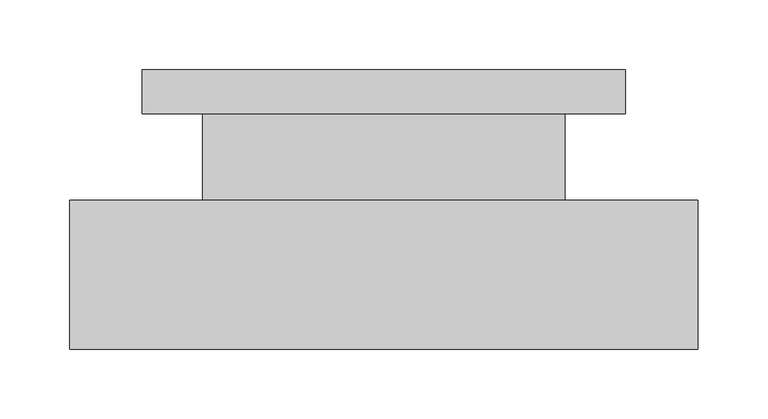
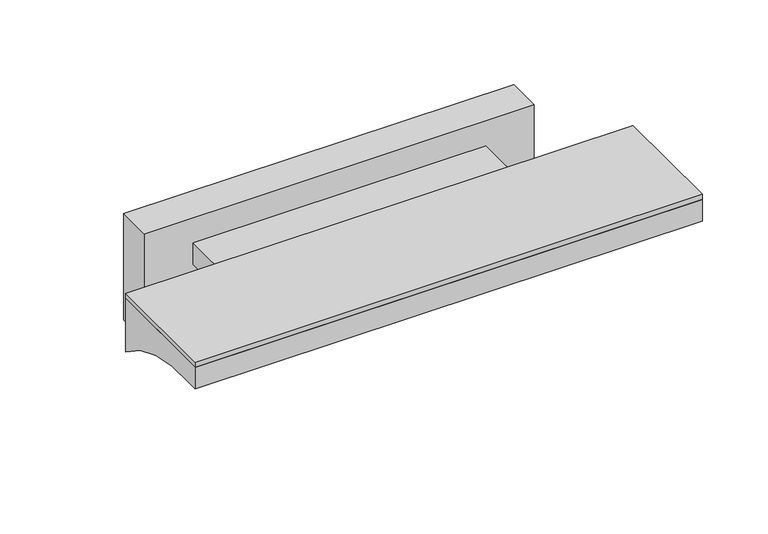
"""IFC4 building model written with IfcOpenShell, lengths in millimetres: light fixture geometry, ZYR_06.02.03 Aplic Exterior : Aplic Exterior Tipus 01."""

from ifc_helpers import new_model, si_unit, point, frame, frame_2d, origin, place, context, project, spatial, polyline, circle_curve, trimmed, segment, composite_curve, outline, extrude, source, transform, mapped, element, save


def light_fixture_ef5a4119(model_context):
    return source(origin(), model_context, "Body", "SweptSolid", [
        extrude(outline(polyline([(173.0769231, 0.0), (173.0769231, -31.3337198), (-173.0769231, -31.3337198), (-173.0769231, 0.0), (173.0769231, 0.0)])), frame((0.0, 0.0, -100.0), z_axis=(0.0, 0.0, 1.0), x_axis=(1.0, 0.0, 0.0)), (0.0, 0.0, 1.0), 100.0),
        extrude(outline(composite_curve([segment(trimmed(circle_curve(frame_2d((-178.8201996, -159.3286858)), 134.825473), [point((-93.4185985, -55.0))], [point((-190.383604, -25.0))], True, "CARTESIAN"), True, "CONTINUOUS"), segment(polyline([(-190.383604, -25.0), (-200.0, -25.0), (-200.0, -5.0), (-93.4185985, -5.0), (-93.4185985, -55.0)]), True, "CONTINUOUS")], self_intersect=False)), frame((-225.0, 0.0, 0.0), z_axis=(1.0, 0.0, 0.0), x_axis=(0.0, 1.0, 0.0)), (0.0, 0.0, 1.0), 450.0),
        extrude(outline(polyline([(225.0, -93.4185985), (225.0, -200.0), (-225.0, -200.0), (-225.0, -93.4185985), (225.0, -93.4185985)])), frame((0.0, 0.0, -5.0), z_axis=(0.0, 0.0, 1.0), x_axis=(1.0, 0.0, 0.0)), (0.0, 0.0, 1.0), 5.0),
        extrude(outline(polyline([(129.8101887, -31.3337198), (129.8101887, -93.3338438), (-129.8101887, -93.3338438), (-129.8101887, -31.3337198), (129.8101887, -31.3337198)])), frame((0.0, 0.0, -43.3333333), z_axis=(0.0, 0.0, 1.0), x_axis=(1.0, 0.0, 0.0)), (0.0, 0.0, 1.0), 20.0),
    ])


if __name__ == "__main__":
    model = new_model("IFC4")
    model_context = context("Model", 3, world=origin())
    ifc_project = project(units=[si_unit("LENGTHUNIT", "METRE", prefix="MILLI")], contexts=[model_context])
    site = spatial("IfcSite", under=ifc_project)
    building = spatial("IfcBuilding", under=site)
    placement = place(None, origin())
    light_fixture_shape = light_fixture_ef5a4119(model_context)
    element("IfcLightFixture", 1, ObjectType="ZYR_06.02.03 Aplic Exterior : Aplic Exterior Tipus 01", at=placement, inside=building, context=model_context, shape_type="MappedRepresentation", body=[
        mapped(light_fixture_shape, transform((0.0, 0.0, 0.0), x_axis=(1.0, 0.0, 0.0), y_axis=(0.0, 1.0, 0.0), z_axis=(0.0, 0.0, 1.0))),
    ])
    save(model, "model.ifc")
